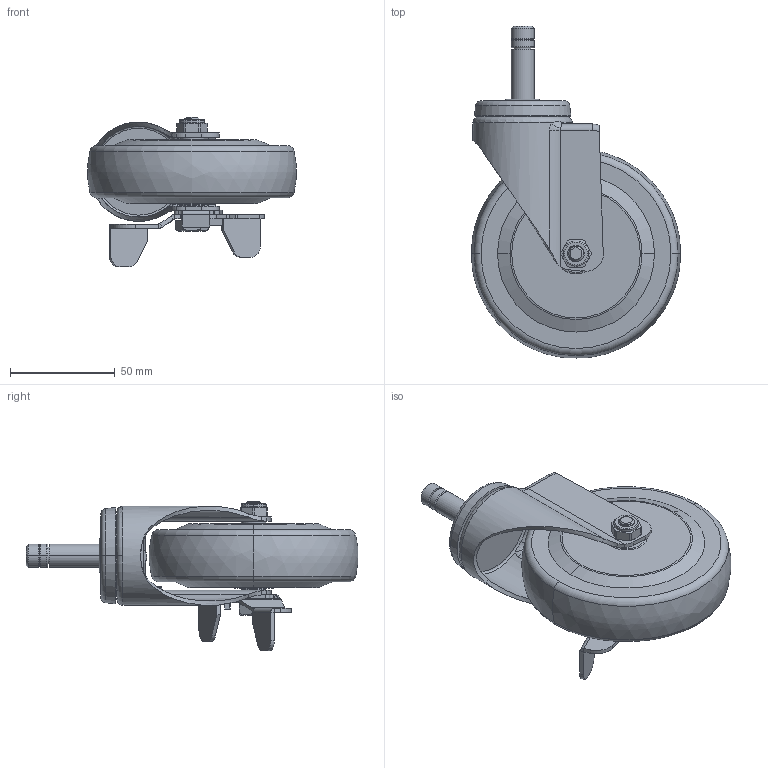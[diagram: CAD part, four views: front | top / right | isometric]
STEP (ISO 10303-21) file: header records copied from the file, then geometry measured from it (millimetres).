
FILE_DESCRIPTION((''),'2;1');
FILE_NAME('36164C-364-64_ASM','2020-01-05T',('L'),(''),'PRO/ENGINEER BY PARAMETRIC TECHNOLOGY CORPORATION, 2010280','PRO/ENGINEER BY PARAMETRIC TECHNOLOGY CORPORATION, 2010280','');
FILE_SCHEMA(('CONFIG_CONTROL_DESIGN'));
Length unit declared in the file: millimetre
Products named in the file (7): 36164C; 364-964; 302-33; 300-34; 304-15; 300-14; 36164C-364-64_ASM
Assembly tree (6 placements, depth 2):
  36164C-364-64_ASM
    36164C
    364-964
    302-33
    300-34
    304-15
    300-14
Bounding box: 99.72 x 158.66 x 71.4 mm (x, y, z)
Volume: 249587.5 mm3; surface area: 54497.5 mm2
Topology: 7 solids, 7 shells, 369 faces, 858 edges, 522 vertices
Faces by surface type: plane 136, cylinder 123, bspline 46, torus 38, cone 26
Entity records: 15995 total; most frequent: CARTESIAN_POINT 7637, ORIENTED_EDGE 1716, DIRECTION 1682, EDGE_CURVE 858, AXIS2_PLACEMENT_3D 644, VERTEX_POINT 522, EDGE_LOOP 402, VECTOR 394
